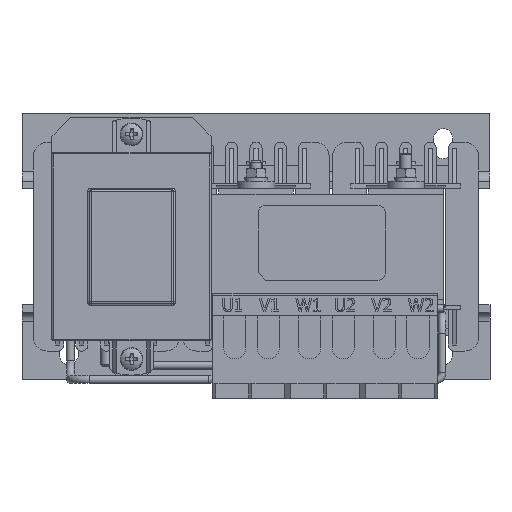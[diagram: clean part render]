
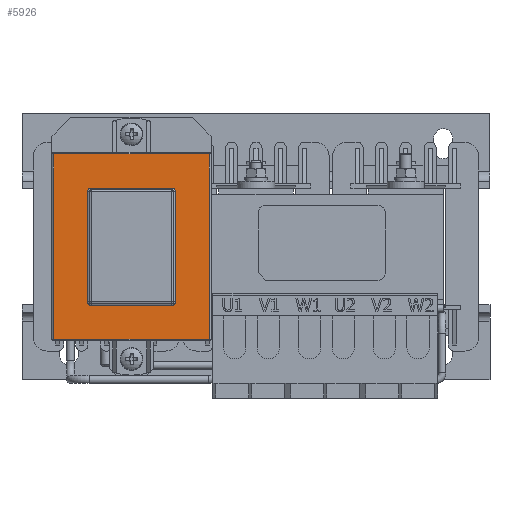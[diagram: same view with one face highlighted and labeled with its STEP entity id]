
A CAD part, front view. The second image highlights one B-rep face of the part: STEP entity #5926.
In plain terms, the highlighted planar face has unit normal (0, -1, 0).
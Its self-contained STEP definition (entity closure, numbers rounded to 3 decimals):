
#5290=CARTESIAN_POINT('',(-18.081,-124.921,29.65));
#5291=VERTEX_POINT('',#5290);
#5292=CARTESIAN_POINT('',(-18.981,-124.921,28.75));
#5293=VERTEX_POINT('',#5292);
#5294=CARTESIAN_POINT('',(-18.081,-124.921,28.75));
#5295=DIRECTION('',(0.0,-1.0,0.0));
#5296=DIRECTION('',(-0.707,0.0,0.707));
#5297=AXIS2_PLACEMENT_3D('',#5294,#5295,#5296);
#5298=CIRCLE('',#5297,0.9);
#5299=EDGE_CURVE('',#5291,#5293,#5298,.T.);
#5334=CARTESIAN_POINT('',(4.419,-124.921,28.75));
#5335=VERTEX_POINT('',#5334);
#5336=CARTESIAN_POINT('',(3.519,-124.921,29.65));
#5337=VERTEX_POINT('',#5336);
#5338=CARTESIAN_POINT('',(3.519,-124.921,28.75));
#5339=DIRECTION('',(0.0,-1.0,0.0));
#5340=DIRECTION('',(0.707,0.0,0.707));
#5341=AXIS2_PLACEMENT_3D('',#5338,#5339,#5340);
#5342=CIRCLE('',#5341,0.9);
#5343=EDGE_CURVE('',#5335,#5337,#5342,.T.);
#5379=CARTESIAN_POINT('',(3.519,-124.921,29.65));
#5380=DIRECTION('',(-1.0,0.0,0.0));
#5381=VECTOR('',#5380,21.6);
#5382=LINE('',#5379,#5381);
#5383=EDGE_CURVE('',#5337,#5291,#5382,.T.);
#5400=CARTESIAN_POINT('',(-18.981,-124.921,-0.75));
#5401=VERTEX_POINT('',#5400);
#5402=CARTESIAN_POINT('',(-18.081,-124.921,-1.65));
#5403=VERTEX_POINT('',#5402);
#5404=CARTESIAN_POINT('',(-18.081,-124.921,-0.75));
#5405=DIRECTION('',(0.0,-1.0,0.0));
#5406=DIRECTION('',(-0.707,0.0,-0.707));
#5407=AXIS2_PLACEMENT_3D('',#5404,#5405,#5406);
#5408=CIRCLE('',#5407,0.9);
#5409=EDGE_CURVE('',#5401,#5403,#5408,.T.);
#5455=CARTESIAN_POINT('',(3.519,-124.921,-1.65));
#5456=VERTEX_POINT('',#5455);
#5464=CARTESIAN_POINT('',(4.419,-124.921,-0.75));
#5465=VERTEX_POINT('',#5464);
#5466=CARTESIAN_POINT('',(3.519,-124.921,-0.75));
#5467=DIRECTION('',(0.0,-1.0,0.0));
#5468=DIRECTION('',(0.707,0.0,-0.707));
#5469=AXIS2_PLACEMENT_3D('',#5466,#5467,#5468);
#5470=CIRCLE('',#5469,0.9);
#5471=EDGE_CURVE('',#5456,#5465,#5470,.T.);
#5489=CARTESIAN_POINT('',(-18.081,-124.921,-1.65));
#5490=DIRECTION('',(1.0,0.0,0.0));
#5491=VECTOR('',#5490,21.6);
#5492=LINE('',#5489,#5491);
#5493=EDGE_CURVE('',#5403,#5456,#5492,.T.);
#5511=CARTESIAN_POINT('',(4.419,-124.921,-0.75));
#5512=DIRECTION('',(0.0,0.0,1.0));
#5513=VECTOR('',#5512,29.5);
#5514=LINE('',#5511,#5513);
#5515=EDGE_CURVE('',#5465,#5335,#5514,.T.);
#5849=CARTESIAN_POINT('',(-18.981,-124.921,28.75));
#5850=DIRECTION('',(0.0,0.0,-1.0));
#5851=VECTOR('',#5850,29.5);
#5852=LINE('',#5849,#5851);
#5853=EDGE_CURVE('',#5293,#5401,#5852,.T.);
#5877=CARTESIAN_POINT('',(3.344,-124.921,14.));
#5878=DIRECTION('',(0.0,-1.0,0.0));
#5879=DIRECTION('',(0.0,0.0,-1.0));
#5880=AXIS2_PLACEMENT_3D('',#5877,#5878,#5879);
#5881=PLANE('',#5880);
#5882=CARTESIAN_POINT('',(13.519,-124.921,38.75));
#5883=VERTEX_POINT('',#5882);
#5884=CARTESIAN_POINT('',(13.519,-124.921,-10.75));
#5885=VERTEX_POINT('',#5884);
#5886=CARTESIAN_POINT('',(13.519,-124.921,38.75));
#5887=DIRECTION('',(0.0,0.0,-1.0));
#5888=VECTOR('',#5887,49.5);
#5889=LINE('',#5886,#5888);
#5890=EDGE_CURVE('',#5883,#5885,#5889,.T.);
#5891=ORIENTED_EDGE('',*,*,#5890,.F.);
#5892=CARTESIAN_POINT('',(-28.081,-124.921,38.75));
#5893=VERTEX_POINT('',#5892);
#5894=CARTESIAN_POINT('',(-28.081,-124.921,38.75));
#5895=DIRECTION('',(1.0,0.0,0.0));
#5896=VECTOR('',#5895,41.6);
#5897=LINE('',#5894,#5896);
#5898=EDGE_CURVE('',#5893,#5883,#5897,.T.);
#5899=ORIENTED_EDGE('',*,*,#5898,.F.);
#5900=CARTESIAN_POINT('',(-28.081,-124.921,-10.75));
#5901=VERTEX_POINT('',#5900);
#5902=CARTESIAN_POINT('',(-28.081,-124.921,-10.75));
#5903=DIRECTION('',(0.0,0.0,1.0));
#5904=VECTOR('',#5903,49.5);
#5905=LINE('',#5902,#5904);
#5906=EDGE_CURVE('',#5901,#5893,#5905,.T.);
#5907=ORIENTED_EDGE('',*,*,#5906,.F.);
#5908=CARTESIAN_POINT('',(13.519,-124.921,-10.75));
#5909=DIRECTION('',(-1.0,0.0,0.0));
#5910=VECTOR('',#5909,41.6);
#5911=LINE('',#5908,#5910);
#5912=EDGE_CURVE('',#5885,#5901,#5911,.T.);
#5913=ORIENTED_EDGE('',*,*,#5912,.F.);
#5914=EDGE_LOOP('',(#5891,#5899,#5907,#5913));
#5915=FACE_OUTER_BOUND('',#5914,.T.);
#5916=ORIENTED_EDGE('',*,*,#5471,.F.);
#5917=ORIENTED_EDGE('',*,*,#5493,.F.);
#5918=ORIENTED_EDGE('',*,*,#5409,.F.);
#5919=ORIENTED_EDGE('',*,*,#5853,.F.);
#5920=ORIENTED_EDGE('',*,*,#5299,.F.);
#5921=ORIENTED_EDGE('',*,*,#5383,.F.);
#5922=ORIENTED_EDGE('',*,*,#5343,.F.);
#5923=ORIENTED_EDGE('',*,*,#5515,.F.);
#5924=EDGE_LOOP('',(#5916,#5917,#5918,#5919,#5920,#5921,#5922,#5923));
#5925=FACE_BOUND('',#5924,.T.);
#5926=ADVANCED_FACE('',(#5915,#5925),#5881,.T.);
